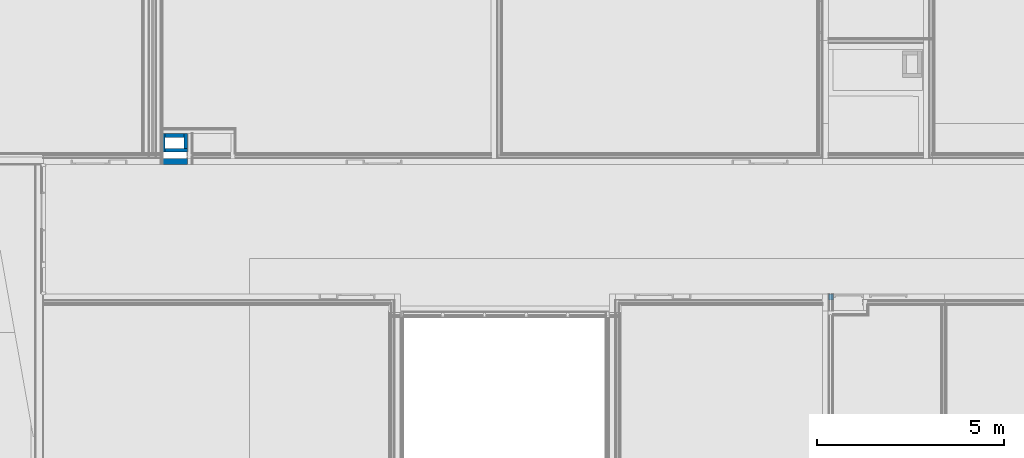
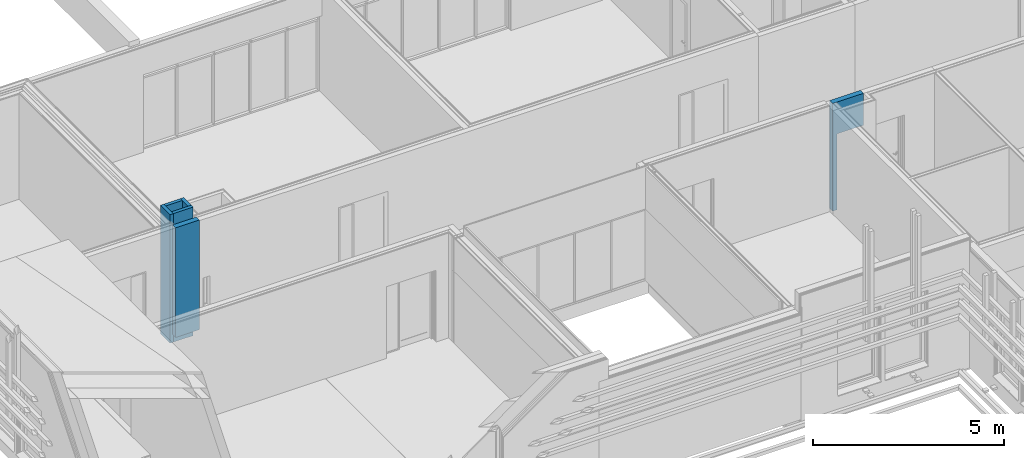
# One storey, part 55 of 139: 6 walls, 2 openings.
"""IFC2X3 building model written with IfcOpenShell, lengths in millimetres."""

from ifc_helpers import new_model, entity, si_unit, converted_unit, derived_unit, money_unit, direction, frame, origin_with_axes, place, context, subcontext, project, spatial, faceted_brep, material, type_object, element, save


model = new_model("IFC2X3")

# Units and contexts
model_context = context("Model", 3, precision=0.01, world=origin_with_axes(), true_north=direction((0.0, 1.0)))
body_context = subcontext(model_context, "Body", "Model", "MODEL_VIEW")
ifc_project = project(units=[si_unit("LENGTHUNIT", "METRE", prefix="MILLI"), si_unit("AREAUNIT", "SQUARE_METRE"), si_unit("VOLUMEUNIT", "CUBIC_METRE"), converted_unit("PLANEANGLEUNIT", "DEGREE", entity("IfcPlaneAngleMeasure", 0.0174532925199), si_unit("PLANEANGLEUNIT", "RADIAN"), dimensions=[0, 0, 0, 0, 0, 0, 0]), money_unit("EUR"), converted_unit("TIMEUNIT", "Year", entity("IfcTimeMeasure", 31556926.0), si_unit("TIMEUNIT", "SECOND"), dimensions=[0, 0, 1, 0, 0, 0, 0]), si_unit("MASSUNIT", "GRAM", prefix="KILO"), si_unit("THERMODYNAMICTEMPERATUREUNIT", "DEGREE_CELSIUS"), si_unit("LUMINOUSINTENSITYUNIT", "LUMEN"), si_unit("ENERGYUNIT", "JOULE", prefix="MEGA"), derived_unit("THERMALCONDUCTANCEUNIT", [(si_unit("POWERUNIT", "WATT"), 1), (si_unit("LENGTHUNIT", "METRE"), -1), (si_unit("THERMODYNAMICTEMPERATUREUNIT", "KELVIN"), -1)]), derived_unit("SPECIFICHEATCAPACITYUNIT", [(si_unit("ENERGYUNIT", "JOULE"), 1), (si_unit("MASSUNIT", "GRAM", prefix="KILO"), -1), (si_unit("THERMODYNAMICTEMPERATUREUNIT", "KELVIN"), -1)]), derived_unit("MASSDENSITYUNIT", [(si_unit("MASSUNIT", "GRAM", prefix="KILO"), 1), (si_unit("VOLUMEUNIT", "CUBIC_METRE"), -1)])], contexts=[model_context])

# Site, building, storey
site_placement = place(None, origin_with_axes())
site = spatial("IfcSite", under=ifc_project, at=site_placement, Name="Kolde pst 67a", CompositionType="ELEMENT")
building_placement = place(site_placement, origin_with_axes())
building = spatial("IfcBuilding", under=site, at=building_placement, Name="Riigigümnaasium", CompositionType="ELEMENT")
storey_placement = place(building_placement, frame((0.0, 0.0, 4600.0), z_axis=(0.0, 0.0, 1.0), x_axis=(1.0, 0.0, 0.0)))
storey = spatial("IfcBuildingStorey", under=building, at=storey_placement, Name="2. korrus", CompositionType="ELEMENT", Elevation=4600.0)

# Wall, opening
ifc_material_1 = material(Name="_KANDETARIND - CLT ristkihtliimpuit vastavalt EK osale, CLT paigaldusvuugid teibitakse ROTHOBLAAS teibiga")
wall_type_1 = type_object("IfcWallType", Name="SS-CLT-16/7_viimistluseta 160", PredefinedType="NOTDEFINED")
wall_1_placement = place(storey_placement, frame((24200.005532, 55889.9931571, -150.0), z_axis=(0.0, 0.0, 1.0), x_axis=(0.99999999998, -6.33002341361e-06, 0.0)))
wall_1 = element("IfcWall", 1, at=wall_1_placement, inside=storey, type_object=wall_type_1, material=ifc_material_1, Name="Sisesein", context=body_context, shape_type="Brep", body=[
    faceted_brep([(931.997202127, -160.0, 2450.0), (931.997202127, 0.0, 2450.0), (931.999050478, 0.0, 3470.0), (931.99903941, -160.0, 3470.0), (131.997202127, 0.0, 2450.0), (131.997202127, -160.0, 2450.0), (131.997202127, 0.0, 150.0), (131.997202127, 0.0, 20.0), (0.0, 0.0, 20.0), (0.0, 0.0, 3470.0), (0.0, -160.0, 3470.0), (0.0, -160.0, 20.0), (131.997202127, -160.0, 20.0), (131.997202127, -160.0, 150.0)], [[[0, 1, 2, 3]], [[4, 1, 0, 5]], [[4, 6, 7, 8, 9, 2, 1]], [[2, 9, 10, 3]], [[5, 0, 3, 10, 11, 12, 13]], [[6, 4, 5, 13]], [[6, 13, 12, 7]], [[8, 7, 12, 11]], [[10, 9, 8, 11]]]),
])
opening_1_placement = place(wall_1_placement, frame((531.997202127, 0.0, 150.0), z_axis=(0.0, 0.0, 1.0), x_axis=(1.0, 0.0, 0.0)))
element("IfcOpeningElement", 2, at=opening_1_placement, cuts=wall_1, Name="Siseuks", context=body_context, shape_type="Brep", body=[
    faceted_brep([(400.0, -160.0, 2300.0), (400.0, -160.0, 0.0), (400.0, 320.0, 0.0), (400.0, 320.0, 2300.0), (-400.0, -160.0, 2300.0), (-400.0, -160.0, 0.0), (-400.0, 320.0, 0.0), (-400.0, 320.0, 2300.0)], [[[0, 1, 2, 3]], [[0, 4, 5, 1]], [[1, 5, 6, 2]], [[3, 2, 6, 7]], [[4, 0, 3, 7]], [[5, 4, 7, 6]]]),
])

wall_2_placement = place(storey_placement, frame((7099.99735826, 59349.9979478, -130.0), z_axis=(0.0, 0.0, 1.0), x_axis=(-1.0, 0.0, 0.0)))
wall_2 = element("IfcWall", 3, at=wall_2_placement, inside=storey, type_object=wall_type_1, material=ifc_material_1, Name="Sisesein", context=body_context, shape_type="Brep", body=[
    faceted_brep([(0.0, -160.0, 3510.0), (722.998634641, -160.0, 3510.0), (722.998634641, 0.0, 3510.0), (0.0, 0.0, 3510.0), (0.0, -160.0, 0.0), (722.998634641, -160.0, 0.0), (722.998634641, 0.0, 0.0), (0.0, 0.0, 0.0)], [[[0, 1, 2, 3]], [[4, 5, 1, 0]], [[2, 1, 5, 6]], [[3, 2, 6, 7]], [[4, 0, 3, 7]], [[7, 6, 5, 4]]]),
])
opening_2_placement = place(wall_2_placement, frame((7099.99735826, 59349.9979478, -4470.0), z_axis=(0.0, 0.0, 1.0), x_axis=(-1.0, 0.0, 0.0)))
element("IfcOpeningElement", 4, at=opening_2_placement, cuts=wall_2, Name="Tulekustuti nišš vastavalt SA osale", ObjectType="OPENING", context=body_context, shape_type="Brep", body=[
    faceted_brep([(7207.70083436, 59349.9979478, 5100.0), (7207.70083436, 59349.9979478, 6080.0), (7207.70083436, 59549.9979478, 6080.0), (7207.70083436, 59549.9979478, 5100.0), (7427.70083436, 59349.9979478, 5100.0), (7427.70083436, 59349.9979478, 6080.0), (7427.70083436, 59549.9979478, 6080.0), (7427.70083436, 59549.9979478, 5100.0)], [[[0, 1, 2, 3]], [[0, 4, 5, 1]], [[1, 5, 6, 2]], [[3, 2, 6, 7]], [[4, 0, 3, 7]], [[5, 4, 7, 6]]]),
])

# Walls
ifc_material_2 = material(Name="_KANDETARIND - kergplokk Fibo 100mm")
wall_type_2 = type_object("IfcWallType", Name="SS-KP-10/3_viimistluseta 100", PredefinedType="NOTDEFINED")
wall_3_placement = place(storey_placement, frame((6399.99791028, 60174.9987031, -520.0), z_axis=(0.0, 0.0, 1.0), x_axis=(-3.77272043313e-09, -1.0, 0.0)))
element("IfcWall", 5, at=wall_3_placement, inside=storey, type_object=wall_type_2, material=ifc_material_2, Name="SE šaht", context=body_context, shape_type="Brep", body=[
    faceted_brep([(500.000755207, 1.88636306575e-06, 0.0), (0.0, 0.0, 0.0), (0.0, 100.0, 0.0), (500.00075483, 100.000001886, 0.0), (500.000755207, 1.88636306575e-06, 4120.0), (0.0, 0.0, 4120.0), (0.0, 100.0, 4120.0), (500.00075483, 100.000001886, 4120.0)], [[[0, 1, 2, 3]], [[4, 5, 1, 0]], [[2, 1, 5, 6]], [[3, 2, 6, 7]], [[3, 7, 4, 0]], [[7, 6, 5, 4]]]),
])
wall_4_placement = place(storey_placement, frame((6399.9979084, 59674.9979478, -520.0), z_axis=(0.0, 0.0, 1.0), x_axis=(1.0, 0.0, 0.0)))
element("IfcWall", 6, at=wall_4_placement, inside=storey, type_object=wall_type_2, material=ifc_material_2, Name="SE šaht", context=body_context, shape_type="Brep", body=[
    faceted_brep([(699.999463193, 0.0, 0.0), (100.0, 0.0, 0.0), (100.000000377, 100.0, 0.0), (699.99946357, 100.0, 0.0), (699.999463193, 0.0, 4120.0), (100.0, 0.0, 4120.0), (100.000000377, 100.0, 4120.0), (699.99946357, 100.0, 4120.0)], [[[0, 1, 2, 3]], [[4, 5, 1, 0]], [[2, 1, 5, 6]], [[3, 2, 6, 7]], [[3, 7, 4, 0]], [[7, 6, 5, 4]]]),
])
wall_5_placement = place(storey_placement, frame((7099.99737159, 59674.9979478, -520.0), z_axis=(0.0, 0.0, 1.0), x_axis=(3.77273466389e-09, 1.0, 0.0)))
element("IfcWall", 7, at=wall_5_placement, inside=storey, type_object=wall_type_2, material=ifc_material_2, Name="SE šaht", context=body_context, shape_type="Brep", body=[
    faceted_brep([(500.000752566, 1.88637017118e-06, 0.0), (100.0, 3.77273323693e-07, 0.0), (99.9999996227, 100.000000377, 0.0), (500.000752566, 100.000001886, 0.0), (500.000752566, 1.88637017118e-06, 4120.0), (100.0, 3.77273323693e-07, 4120.0), (99.9999996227, 100.000000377, 4120.0), (500.000752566, 100.000001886, 4120.0)], [[[0, 1, 2, 3]], [[4, 5, 1, 0]], [[2, 1, 5, 6]], [[3, 2, 6, 7]], [[3, 7, 4, 0]], [[7, 6, 5, 4]]]),
])
wall_6_placement = place(storey_placement, frame((7099.99737348, 60174.9987004, -520.0), z_axis=(0.0, 0.0, 1.0), x_axis=(-1.0, 3.77273105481e-09, 0.0)))
element("IfcWall", 8, at=wall_6_placement, inside=storey, type_object=wall_type_2, material=ifc_material_2, Name="SE šaht", context=body_context, shape_type="Brep", body=[
    faceted_brep([(599.999463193, 2.26363994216e-06, 0.0), (100.0, 3.77276876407e-07, 0.0), (100.0, 100.000000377, 0.0), (599.999463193, 100.000002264, 0.0), (599.999463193, 2.26363994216e-06, 4120.0), (100.0, 3.77276876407e-07, 4120.0), (100.0, 100.000000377, 4120.0), (599.999463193, 100.000002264, 4120.0)], [[[0, 1, 2, 3]], [[4, 5, 1, 0]], [[2, 1, 5, 6]], [[3, 2, 6, 7]], [[3, 7, 4, 0]], [[7, 6, 5, 4]]]),
])

save(model, "model.ifc")
